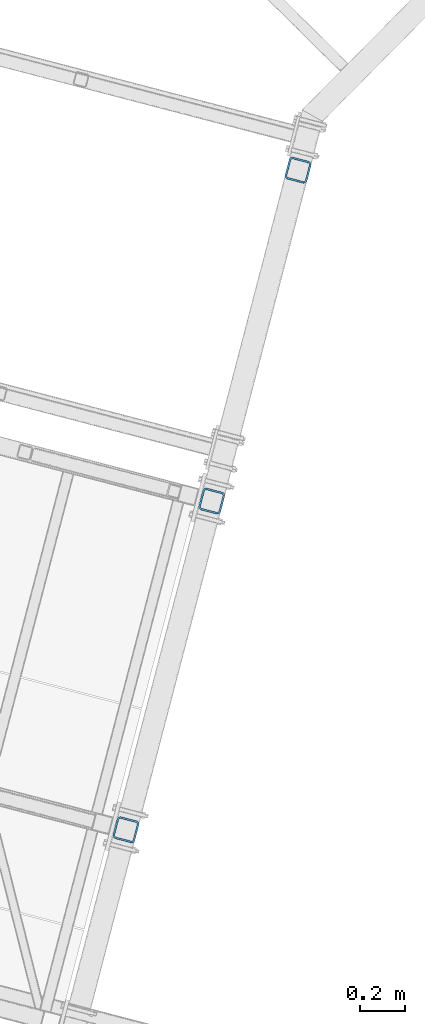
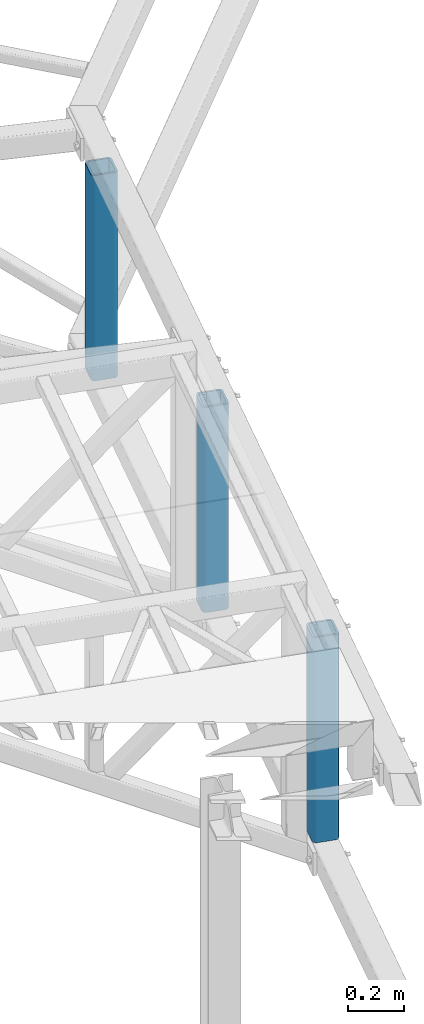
# One storey, part 6 of 169: 3 columns, 3 elements without a shape of their own.
"""IFC2X3 building model written with IfcOpenShell, lengths in millimetres."""

from ifc_helpers import new_model, si_unit, frame, origin_with_axes, origin_2d_with_axis, place, context, subcontext, project, spatial, hollow_rectangle, extrude, material, type_object, element, aggregate, save


model = new_model("IFC2X3")

# Units and contexts
model_context = context("Model", 3, precision=1e-05, world=origin_with_axes())
body_context = subcontext(model_context, "Body", "Model", "MODEL_VIEW")
ifc_project = project(units=[si_unit("LENGTHUNIT", "METRE", prefix="MILLI"), si_unit("AREAUNIT", "SQUARE_METRE"), si_unit("VOLUMEUNIT", "CUBIC_METRE"), si_unit("MASSUNIT", "GRAM", prefix="KILO"), si_unit("TIMEUNIT", "SECOND"), si_unit("PLANEANGLEUNIT", "RADIAN"), si_unit("SOLIDANGLEUNIT", "STERADIAN"), si_unit("THERMODYNAMICTEMPERATUREUNIT", "DEGREE_CELSIUS"), si_unit("LUMINOUSINTENSITYUNIT", "LUMEN")], contexts=[model_context])

# Site, building, storey
site_placement = place(None, origin_with_axes())
site = spatial("IfcSite", under=ifc_project, at=site_placement, Name="Undefined", CompositionType="ELEMENT")
building_placement = place(site_placement, origin_with_axes())
building = spatial("IfcBuilding", under=site, at=building_placement, Name="Undefined", CompositionType="ELEMENT")
storey_placement = place(building_placement, origin_with_axes())
storey = spatial("IfcBuildingStorey", under=building, at=storey_placement, Name="Undefined", CompositionType="ELEMENT", Elevation=0.0)

# Assembly, column
assembly_1_placement = place(storey_placement, origin_with_axes())
assembly_1 = element("IfcElementAssembly", 1, at=assembly_1_placement, inside=storey, Name="Steel Assembly", AssemblyPlace="NOTDEFINED", PredefinedType="RIGID_FRAME")
ifc_material = material(Name="STEEL/S235")
column_type = type_object("IfcColumnType", Name="SHS100*8", PredefinedType="NOTDEFINED")
column_1_placement = place(assembly_1_placement, frame((-23307.7129988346, 8763.94170162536, 12881.9330431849), z_axis=(-8.00909999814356e-05, 0.000162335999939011, 0.999999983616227), x_axis=(-0.967563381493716, 0.252628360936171, -0.000118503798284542)))
column_1 = element("IfcColumn", 2, at=column_1_placement, type_object=column_type, material=ifc_material, Name="BEAM", ObjectType="SHS100*8", context=body_context, shape_type="SweptSolid", body=[
    extrude(hollow_rectangle(XDim=100.0, YDim=100.0, WallThickness=8.0, InnerFilletRadius=8.0, OuterFilletRadius=16.0, at=origin_2d_with_axis()), frame((-1.21972742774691e-17, -9.09494701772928e-13, 899.999987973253), z_axis=(-2.54700353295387e-10, 0.0, -1.0), x_axis=(0.0, 1.0, 0.0)), (0.0, 0.0, 1.0), 900.0),
])
aggregate(assembly_1, [column_1])

assembly_2_placement = place(storey_placement, origin_with_axes())
assembly_2 = element("IfcElementAssembly", 3, at=assembly_2_placement, inside=storey, Name="Steel Assembly", AssemblyPlace="NOTDEFINED", PredefinedType="RIGID_FRAME")
column_2_placement = place(assembly_2_placement, frame((-22930.0337748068, 10210.448220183, 12881.728471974), z_axis=(-8.00909999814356e-05, 0.000162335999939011, 0.999999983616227), x_axis=(-0.967563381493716, 0.252628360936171, -0.000118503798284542)))
column_2 = element("IfcColumn", 4, at=column_2_placement, type_object=column_type, material=ifc_material, Name="BEAM", ObjectType="SHS100*8", context=body_context, shape_type="SweptSolid", body=[
    extrude(hollow_rectangle(XDim=100.0, YDim=100.0, WallThickness=8.0, InnerFilletRadius=8.0, OuterFilletRadius=16.0, at=origin_2d_with_axis()), frame((-1.21972742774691e-17, -9.09494701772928e-13, 899.999987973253), z_axis=(-2.54700353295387e-10, 0.0, -1.0), x_axis=(0.0, 1.0, 0.0)), (0.0, 0.0, 1.0), 900.0),
])
aggregate(assembly_2, [column_2])

assembly_3_placement = place(storey_placement, origin_with_axes())
assembly_3 = element("IfcElementAssembly", 5, at=assembly_3_placement, inside=storey, Name="Steel Assembly", AssemblyPlace="NOTDEFINED", PredefinedType="RIGID_FRAME")
column_3_placement = place(assembly_3_placement, frame((-22549.8117815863, 11666.6935117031, 12881.5225234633), z_axis=(-8.00909999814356e-05, 0.000162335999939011, 0.999999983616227), x_axis=(-0.967563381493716, 0.252628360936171, -0.000118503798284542)))
column_3 = element("IfcColumn", 6, at=column_3_placement, type_object=column_type, material=ifc_material, Name="BEAM", ObjectType="SHS100*8", context=body_context, shape_type="SweptSolid", body=[
    extrude(hollow_rectangle(XDim=100.0, YDim=100.0, WallThickness=8.0, InnerFilletRadius=8.0, OuterFilletRadius=16.0, at=origin_2d_with_axis()), frame((-1.21972742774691e-17, -9.09494701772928e-13, 899.999987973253), z_axis=(-2.54700353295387e-10, 0.0, -1.0), x_axis=(0.0, 1.0, 0.0)), (0.0, 0.0, 1.0), 900.0),
])
aggregate(assembly_3, [column_3])

save(model, "model.ifc")
